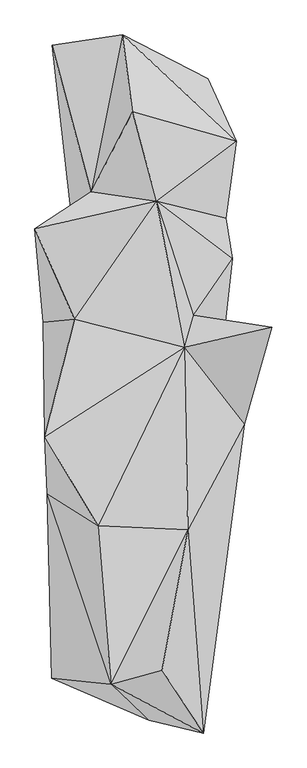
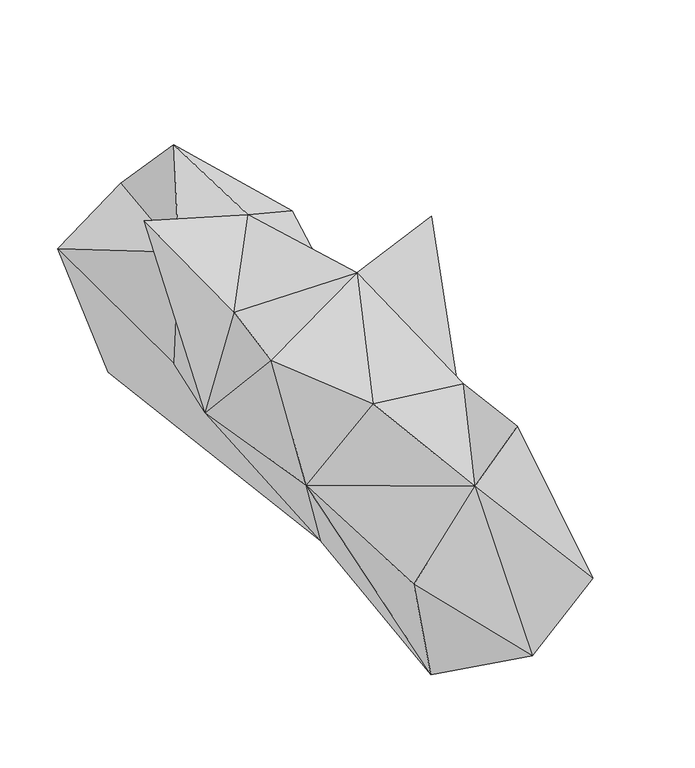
"""IFC4 building model written with IfcOpenShell, lengths in millimetres: geographic element geometry, Enscape AssetDefinition - Potted Plant 250 Snake Plant : Enscape AssetDefinition - Potted Plant 250 Snake Plant 4."""

from ifc_helpers import new_model, si_unit, origin, place, context, project, spatial, triangles, source, transform, mapped, element, save


def geographic_element_bfbed8a8(model_context):
    return source(origin(), model_context, "Body", "Tessellation", [
        triangles([(-12.4017208, 448.843824, 362.7889023), (-28.1793528, 572.4672738, 226.616164), (108.8616782, 501.8273269, 46.6743858), (22.7670424, 439.639989, 0.0), (-78.7240283, 320.47586, 277.2369295), (137.8676385, 277.9517115, 190.4619573), (154.8272683, 402.0357436, 217.9053766), (113.4500428, 298.1846516, 66.5704869), (59.0165467, -57.5962936, 0.0), (26.4963614, 305.1720703, 314.8146867), (85.7299779, 122.9298512, 230.2561307), (148.2627344, 212.9920501, 188.4229102), (122.5916723, -18.3825273, 117.8166821), (211.6320495, 103.3381873, 369.9371215), (167.4083499, -52.0853745, 170.2323054), (77.0747922, -221.5652005, 322.2958434), (101.414958, -547.8445035, 173.8358645), (112.7518205, -409.0344443, 0.0), (13.9788218, -527.4454216, 57.7127745), (35.4434171, -447.1198013, 400.0000031), (-67.792192, -215.3296072, 335.105236), (-142.1131824, -459.858377, 195.7008635), (-46.7657183, -469.2369106, 337.7789826), (-63.8729318, -58.3520887, 0.0), (-2.7048316, -399.5764824, 0.0), (-108.6022555, -450.7399292, 21.3765727), (-149.0291302, -163.9808156, 190.7849027), (70.9146258, 71.3216459, 339.9226018), (-152.9781624, -72.5466619, 354.0298076), (-105.4301926, 115.8477889, 306.5777985), (-155.6803412, 111.7538164, 152.0813966), (-109.979497, 279.6710833, 119.9186069), (-169.1528837, 261.2905373, 399.0787293), (-116.2111297, 455.3851762, 0.0), (-141.4837877, 556.1952292, 162.3434883)], [[4, 9, 24], [34, 4, 24], [4, 34, 35], [35, 34, 32], [24, 32, 34], [5, 35, 32], [5, 33, 10], [28, 10, 30], [33, 30, 10], [31, 33, 5], [24, 31, 32], [31, 5, 32], [30, 33, 31], [29, 30, 31], [28, 30, 29], [28, 29, 21], [27, 21, 29], [27, 29, 31], [27, 31, 24], [27, 26, 22], [27, 24, 26], [24, 25, 26], [24, 9, 25], [22, 26, 19], [26, 25, 19], [21, 27, 23], [22, 19, 23], [27, 22, 23], [16, 23, 20], [28, 21, 16], [16, 21, 23], [17, 16, 20], [17, 23, 19], [20, 23, 17], [18, 25, 9], [19, 25, 18], [17, 19, 18], [18, 15, 17], [15, 28, 16], [15, 16, 17], [28, 15, 14], [9, 15, 18], [15, 9, 13], [15, 13, 11], [14, 15, 11], [10, 28, 11], [11, 28, 14], [12, 11, 13], [12, 13, 9], [12, 10, 11], [6, 10, 12], [4, 8, 9], [6, 12, 8], [8, 12, 9], [8, 4, 3], [7, 10, 6], [7, 6, 8], [8, 3, 7], [1, 10, 7], [5, 10, 1], [2, 7, 3], [4, 35, 2], [5, 2, 35], [5, 1, 2], [2, 3, 4], [2, 1, 7]]),
    ])


if __name__ == "__main__":
    model = new_model("IFC4")
    model_context = context("Model", 3, world=origin())
    ifc_project = project(units=[si_unit("LENGTHUNIT", "METRE", prefix="MILLI")], contexts=[model_context])
    site = spatial("IfcSite", under=ifc_project)
    building = spatial("IfcBuilding", under=site)
    placement = place(None, origin())
    geographic_element_shape = geographic_element_bfbed8a8(model_context)
    element("IfcGeographicElement", 1, ObjectType="Enscape AssetDefinition - Potted Plant 250 Snake Plant : Enscape AssetDefinition - Potted Plant 250 Snake Plant 4", at=placement, inside=building, context=model_context, shape_type="MappedRepresentation", body=[
        mapped(geographic_element_shape, transform((0.0, 0.0, 0.0), x_axis=(1.0, 0.0, 0.0), y_axis=(0.0, 1.0, 0.0), z_axis=(0.0, 0.0, 1.0))),
    ])
    save(model, "model.ifc")
